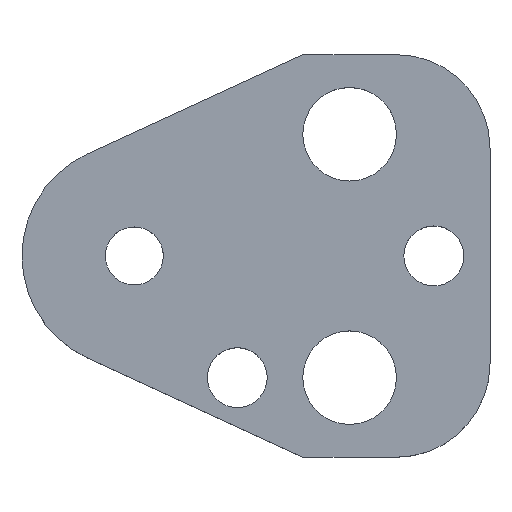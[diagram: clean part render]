
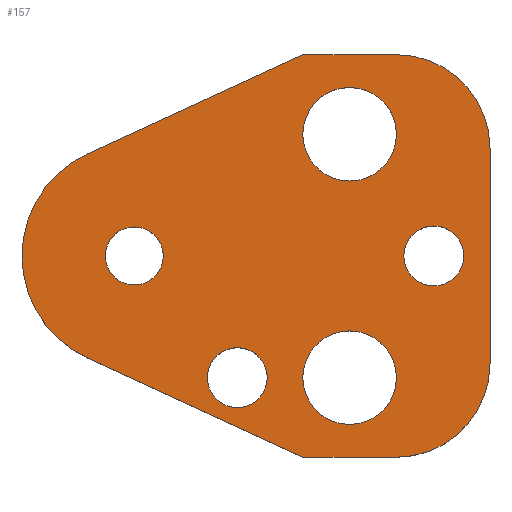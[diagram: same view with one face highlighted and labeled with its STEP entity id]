
A CAD part, top view. The second image highlights one B-rep face of the part: STEP entity #157.
In plain terms, the highlighted planar face has unit normal (0, 0, 1).
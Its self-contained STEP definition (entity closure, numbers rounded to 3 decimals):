
#103=FACE_BOUND('',#207,.T.);
#104=FACE_BOUND('',#208,.T.);
#105=FACE_BOUND('',#209,.T.);
#106=FACE_BOUND('',#210,.T.);
#107=FACE_BOUND('',#211,.T.);
#108=FACE_BOUND('',#212,.T.);
#122=CIRCLE('',#480,10.);
#124=CIRCLE('',#484,10.);
#127=CIRCLE('',#490,12.);
#138=CIRCLE('',#503,3.2);
#139=CIRCLE('',#504,3.2);
#140=CIRCLE('',#505,5.);
#141=CIRCLE('',#506,5.);
#142=CIRCLE('',#507,5.);
#143=CIRCLE('',#508,5.);
#144=CIRCLE('',#509,3.2);
#145=CIRCLE('',#510,3.2);
#146=CIRCLE('',#511,3.1);
#147=CIRCLE('',#512,3.1);
#157=ADVANCED_FACE('',(#103,#104,#105,#106,#107,#108),#174,.T.);
#174=PLANE('',#513);
#207=EDGE_LOOP('',(#273,#274,#275,#276,#277,#278,#279,#280));
#208=EDGE_LOOP('',(#281,#282));
#209=EDGE_LOOP('',(#283,#284));
#210=EDGE_LOOP('',(#285,#286));
#211=EDGE_LOOP('',(#287,#288));
#212=EDGE_LOOP('',(#289,#290));
#273=ORIENTED_EDGE('',*,*,#368,.T.);
#274=ORIENTED_EDGE('',*,*,#372,.T.);
#275=ORIENTED_EDGE('',*,*,#375,.T.);
#276=ORIENTED_EDGE('',*,*,#378,.T.);
#277=ORIENTED_EDGE('',*,*,#381,.T.);
#278=ORIENTED_EDGE('',*,*,#384,.T.);
#279=ORIENTED_EDGE('',*,*,#387,.T.);
#280=ORIENTED_EDGE('',*,*,#390,.T.);
#281=ORIENTED_EDGE('',*,*,#401,.T.);
#282=ORIENTED_EDGE('',*,*,#402,.T.);
#283=ORIENTED_EDGE('',*,*,#403,.T.);
#284=ORIENTED_EDGE('',*,*,#404,.T.);
#285=ORIENTED_EDGE('',*,*,#405,.T.);
#286=ORIENTED_EDGE('',*,*,#406,.T.);
#287=ORIENTED_EDGE('',*,*,#407,.T.);
#288=ORIENTED_EDGE('',*,*,#408,.T.);
#289=ORIENTED_EDGE('',*,*,#409,.T.);
#290=ORIENTED_EDGE('',*,*,#410,.T.);
#332=VERTEX_POINT('',#649);
#333=VERTEX_POINT('',#651);
#336=VERTEX_POINT('',#658);
#338=VERTEX_POINT('',#664);
#340=VERTEX_POINT('',#670);
#342=VERTEX_POINT('',#676);
#344=VERTEX_POINT('',#682);
#346=VERTEX_POINT('',#688);
#357=VERTEX_POINT('',#717);
#358=VERTEX_POINT('',#718);
#359=VERTEX_POINT('',#721);
#360=VERTEX_POINT('',#722);
#361=VERTEX_POINT('',#725);
#362=VERTEX_POINT('',#726);
#363=VERTEX_POINT('',#729);
#364=VERTEX_POINT('',#730);
#365=VERTEX_POINT('',#733);
#366=VERTEX_POINT('',#734);
#368=EDGE_CURVE('',#333,#332,#422,.T.);
#372=EDGE_CURVE('',#332,#336,#426,.T.);
#375=EDGE_CURVE('',#336,#338,#122,.T.);
#378=EDGE_CURVE('',#338,#340,#430,.T.);
#381=EDGE_CURVE('',#340,#342,#124,.T.);
#384=EDGE_CURVE('',#342,#344,#434,.T.);
#387=EDGE_CURVE('',#344,#346,#437,.T.);
#390=EDGE_CURVE('',#346,#333,#127,.T.);
#401=EDGE_CURVE('',#357,#358,#138,.T.);
#402=EDGE_CURVE('',#358,#357,#139,.T.);
#403=EDGE_CURVE('',#359,#360,#140,.T.);
#404=EDGE_CURVE('',#360,#359,#141,.T.);
#405=EDGE_CURVE('',#361,#362,#142,.T.);
#406=EDGE_CURVE('',#362,#361,#143,.T.);
#407=EDGE_CURVE('',#363,#364,#144,.T.);
#408=EDGE_CURVE('',#364,#363,#145,.T.);
#409=EDGE_CURVE('',#365,#366,#146,.T.);
#410=EDGE_CURVE('',#366,#365,#147,.T.);
#422=LINE('',#650,#450);
#426=LINE('',#659,#454);
#430=LINE('',#671,#458);
#434=LINE('',#683,#462);
#437=LINE('',#689,#465);
#450=VECTOR('',#527,1.);
#454=VECTOR('',#533,1.);
#458=VECTOR('',#545,1.);
#462=VECTOR('',#557,1.);
#465=VECTOR('',#562,1.);
#480=AXIS2_PLACEMENT_3D('',#665,#538,#539);
#484=AXIS2_PLACEMENT_3D('',#677,#550,#551);
#490=AXIS2_PLACEMENT_3D('',#693,#568,#569);
#503=AXIS2_PLACEMENT_3D('',#716,#594,#595);
#504=AXIS2_PLACEMENT_3D('',#719,#596,#597);
#505=AXIS2_PLACEMENT_3D('',#720,#598,#599);
#506=AXIS2_PLACEMENT_3D('',#723,#600,#601);
#507=AXIS2_PLACEMENT_3D('',#724,#602,#603);
#508=AXIS2_PLACEMENT_3D('',#727,#604,#605);
#509=AXIS2_PLACEMENT_3D('',#728,#606,#607);
#510=AXIS2_PLACEMENT_3D('',#731,#608,#609);
#511=AXIS2_PLACEMENT_3D('',#732,#610,#611);
#512=AXIS2_PLACEMENT_3D('',#735,#612,#613);
#513=AXIS2_PLACEMENT_3D('',#736,#614,#615);
#527=DIRECTION('',(0.908,-0.418,0.));
#533=DIRECTION('',(1.,0.,0.));
#538=DIRECTION('',(0.,0.,1.));
#539=DIRECTION('',(-0.707,0.707,0.));
#545=DIRECTION('',(0.,1.,0.));
#550=DIRECTION('',(0.,0.,1.));
#551=DIRECTION('',(-0.707,-0.707,0.));
#557=DIRECTION('',(-1.,0.,0.));
#562=DIRECTION('',(-0.908,-0.418,0.));
#568=DIRECTION('',(0.,0.,1.));
#569=DIRECTION('',(1.,0.,0.));
#594=DIRECTION('',(0.,0.,-1.));
#595=DIRECTION('',(-1.,0.,0.));
#596=DIRECTION('',(0.,0.,-1.));
#597=DIRECTION('',(1.,0.,0.));
#598=DIRECTION('',(0.,0.,-1.));
#599=DIRECTION('',(-1.,0.,0.));
#600=DIRECTION('',(0.,0.,-1.));
#601=DIRECTION('',(1.,0.,0.));
#602=DIRECTION('',(0.,0.,-1.));
#603=DIRECTION('',(-1.,0.,0.));
#604=DIRECTION('',(0.,0.,-1.));
#605=DIRECTION('',(1.,0.,0.));
#606=DIRECTION('',(0.,0.,-1.));
#607=DIRECTION('',(-1.,0.,0.));
#608=DIRECTION('',(0.,0.,-1.));
#609=DIRECTION('',(1.,0.,0.));
#610=DIRECTION('',(0.,0.,-1.));
#611=DIRECTION('',(-1.,0.,0.));
#612=DIRECTION('',(0.,0.,-1.));
#613=DIRECTION('',(1.,0.,0.));
#614=DIRECTION('',(0.,0.,1.));
#615=DIRECTION('',(0.908,-0.418,0.));
#649=CARTESIAN_POINT('',(18.,-21.5,6.));
#650=CARTESIAN_POINT('',(18.,-21.5,6.));
#651=CARTESIAN_POINT('',(-5.019,-10.9,6.));
#658=CARTESIAN_POINT('',(28.,-21.5,6.));
#659=CARTESIAN_POINT('',(18.,-21.5,6.));
#664=CARTESIAN_POINT('',(38.,-11.5,6.));
#665=CARTESIAN_POINT('',(28.,-11.5,6.));
#670=CARTESIAN_POINT('',(38.,11.5,6.));
#671=CARTESIAN_POINT('',(38.,11.5,6.));
#676=CARTESIAN_POINT('',(28.,21.5,6.));
#677=CARTESIAN_POINT('',(28.,11.5,6.));
#682=CARTESIAN_POINT('',(18.,21.5,6.));
#683=CARTESIAN_POINT('',(18.,21.5,6.));
#688=CARTESIAN_POINT('',(-5.019,10.9,6.));
#689=CARTESIAN_POINT('',(18.,21.5,6.));
#693=CARTESIAN_POINT('',(0.,0.,6.));
#716=CARTESIAN_POINT('',(32.,0.,6.));
#717=CARTESIAN_POINT('',(32.,3.2,6.));
#718=CARTESIAN_POINT('',(32.,-3.2,6.));
#719=CARTESIAN_POINT('',(32.,0.,6.));
#720=CARTESIAN_POINT('',(23.,13.,6.));
#721=CARTESIAN_POINT('',(23.,18.,6.));
#722=CARTESIAN_POINT('',(23.,8.,6.));
#723=CARTESIAN_POINT('',(23.,13.,6.));
#724=CARTESIAN_POINT('',(23.,-13.,6.));
#725=CARTESIAN_POINT('',(23.,-8.,6.));
#726=CARTESIAN_POINT('',(23.,-18.,6.));
#727=CARTESIAN_POINT('',(23.,-13.,6.));
#728=CARTESIAN_POINT('',(11.,-13.,6.));
#729=CARTESIAN_POINT('',(11.,-9.8,6.));
#730=CARTESIAN_POINT('',(11.,-16.2,6.));
#731=CARTESIAN_POINT('',(11.,-13.,6.));
#732=CARTESIAN_POINT('',(0.,0.,6.));
#733=CARTESIAN_POINT('',(0.,3.1,6.));
#734=CARTESIAN_POINT('',(0.,-3.1,6.));
#735=CARTESIAN_POINT('',(0.,0.,6.));
#736=CARTESIAN_POINT('',(-5.019,-10.9,6.));
